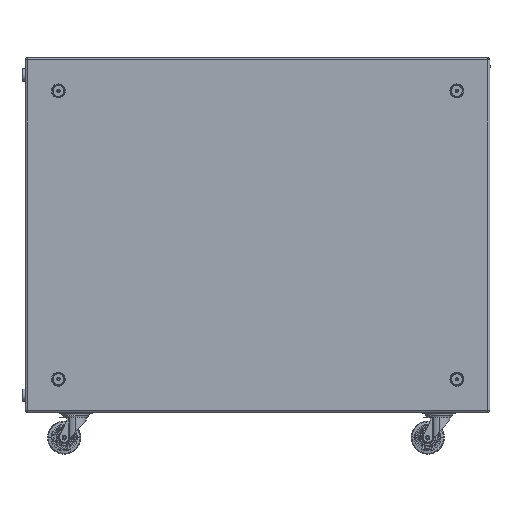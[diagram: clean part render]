
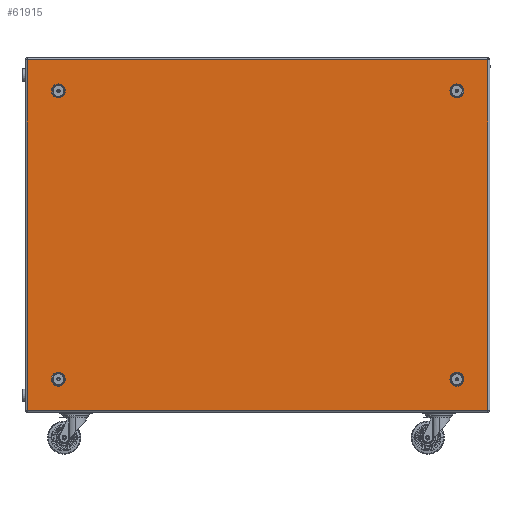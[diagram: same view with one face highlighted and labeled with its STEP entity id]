
A CAD part, front view. The second image highlights one B-rep face of the part: STEP entity #61915.
In plain terms, the highlighted planar face has unit normal (0, -1, 0) as drawn and (0, 0, -1) by its records, which use the part's own axes.
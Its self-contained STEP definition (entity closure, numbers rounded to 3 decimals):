
#1383 = DIRECTION ( 'NONE',  ( 0., 1., 0. ) ) ;
#1385 = DIRECTION ( 'NONE',  ( 0., 0., -1. ) ) ;
#1387 = CARTESIAN_POINT ( 'NONE',  ( 1482., 688., 497. ) ) ;
#1389 = AXIS2_PLACEMENT_3D ( 'NONE', #1387, #1385, #1383 ) ;
#1404 = CIRCLE ( 'NONE', #1389, 21. ) ;
#1414 = DIRECTION ( 'NONE',  ( -1., 0., 0. ) ) ;
#1415 = DIRECTION ( 'NONE',  ( 0., 0., -1. ) ) ;
#1416 = CARTESIAN_POINT ( 'NONE',  ( 1482., 1558., 497. ) ) ;
#1418 = AXIS2_PLACEMENT_3D ( 'NONE', #1416, #1415, #1414 ) ;
#1420 = CIRCLE ( 'NONE', #1418, 21. ) ;
#1502 = DIRECTION ( 'NONE',  ( -1., 0., 0. ) ) ;
#1504 = DIRECTION ( 'NONE',  ( 0., 0., -1. ) ) ;
#1505 = CARTESIAN_POINT ( 'NONE',  ( 2684., 688., 497. ) ) ;
#1506 = AXIS2_PLACEMENT_3D ( 'NONE', #1505, #1504, #1502 ) ;
#1516 = CIRCLE ( 'NONE', #1506, 21. ) ;
#1624 = DIRECTION ( 'NONE',  ( 1., 0., 0. ) ) ;
#1625 = VECTOR ( 'NONE', #1624, 1000. ) ;
#1627 = CARTESIAN_POINT ( 'NONE',  ( 2083., 594.5, 497. ) ) ;
#1628 = LINE ( 'NONE', #1627, #1625 ) ;
#1632 = CARTESIAN_POINT ( 'NONE',  ( 1388.5, 594.5, 497. ) ) ;
#1708 = DIRECTION ( 'NONE',  ( -1., 0., 0. ) ) ;
#1709 = DIRECTION ( 'NONE',  ( 0., 0., -1. ) ) ;
#1710 = CARTESIAN_POINT ( 'NONE',  ( 2684., 1558., 497. ) ) ;
#1712 = AXIS2_PLACEMENT_3D ( 'NONE', #1710, #1709, #1708 ) ;
#1721 = CIRCLE ( 'NONE', #1712, 21. ) ;
#4930 = CARTESIAN_POINT ( 'NONE',  ( 1388.5, 1651.5, 497. ) ) ;
#5857 = DIRECTION ( 'NONE',  ( 0., 1., 0. ) ) ;
#5858 = VECTOR ( 'NONE', #5857, 1000. ) ;
#5859 = CARTESIAN_POINT ( 'NONE',  ( 2777.5, 1390.5, 497. ) ) ;
#5860 = LINE ( 'NONE', #5859, #5858 ) ;
#5861 = CARTESIAN_POINT ( 'NONE',  ( 2777.5, 1651.5, 497. ) ) ;
#5862 = DIRECTION ( 'NONE',  ( -1., 0., 0. ) ) ;
#5863 = VECTOR ( 'NONE', #5862, 1000. ) ;
#5864 = CARTESIAN_POINT ( 'NONE',  ( 1732.5, 1651.5, 497. ) ) ;
#5868 = LINE ( 'NONE', #5864, #5863 ) ;
#6027 = DIRECTION ( 'NONE',  ( 0., -1., 0. ) ) ;
#6028 = VECTOR ( 'NONE', #6027, 1000. ) ;
#6029 = CARTESIAN_POINT ( 'NONE',  ( 1388.5, 855.5, 497. ) ) ;
#6030 = DIRECTION ( 'NONE',  ( 0., -1., 0. ) ) ;
#6031 = DIRECTION ( 'NONE',  ( 0., 0., 1. ) ) ;
#6032 = CARTESIAN_POINT ( 'NONE',  ( 2083., 1123., 497. ) ) ;
#6034 = LINE ( 'NONE', #6029, #6028 ) ;
#6035 = AXIS2_PLACEMENT_3D ( 'NONE', #6032, #6031, #6030 ) ;
#6036 = PLANE ( 'NONE',  #6035 ) ;
#6037 = FACE_BOUND ( 'NONE', #61895, .T. ) ;
#6038 = FACE_BOUND ( 'NONE', #61890, .T. ) ;
#6040 = FACE_BOUND ( 'NONE', #61883, .T. ) ;
#6041 = FACE_BOUND ( 'NONE', #61770, .T. ) ;
#6042 = FACE_OUTER_BOUND ( 'NONE', #61918, .T. ) ;
#33034 = CARTESIAN_POINT ( 'NONE',  ( 2777.5, 594.5, 497. ) ) ;
#35942 = AXIS2_PLACEMENT_3D ( 'NONE', #36008, #36007, #36006 ) ;
#35943 = CIRCLE ( 'NONE', #35942, 21. ) ;
#35962 = CARTESIAN_POINT ( 'NONE',  ( 1482., 709., 497. ) ) ;
#36005 = CARTESIAN_POINT ( 'NONE',  ( 2663., 1558., 497. ) ) ;
#36006 = DIRECTION ( 'NONE',  ( -1., 0., 0. ) ) ;
#36007 = DIRECTION ( 'NONE',  ( 0., 0., -1. ) ) ;
#36008 = CARTESIAN_POINT ( 'NONE',  ( 2684., 1558., 497. ) ) ;
#36014 = CARTESIAN_POINT ( 'NONE',  ( 2705., 1558., 497. ) ) ;
#36079 = CARTESIAN_POINT ( 'NONE',  ( 1503., 1558., 497. ) ) ;
#36100 = CARTESIAN_POINT ( 'NONE',  ( 2663., 688., 497. ) ) ;
#36101 = DIRECTION ( 'NONE',  ( -1., 0., 0. ) ) ;
#36102 = DIRECTION ( 'NONE',  ( 0., 0., -1. ) ) ;
#36103 = CARTESIAN_POINT ( 'NONE',  ( 2684., 688., 497. ) ) ;
#36104 = AXIS2_PLACEMENT_3D ( 'NONE', #36103, #36102, #36101 ) ;
#36105 = CIRCLE ( 'NONE', #36104, 21. ) ;
#36106 = CARTESIAN_POINT ( 'NONE',  ( 2705., 688., 497. ) ) ;
#36109 = DIRECTION ( 'NONE',  ( 0., 1., 0. ) ) ;
#36110 = DIRECTION ( 'NONE',  ( 0., 0., -1. ) ) ;
#36111 = CARTESIAN_POINT ( 'NONE',  ( 1482., 688., 497. ) ) ;
#36112 = AXIS2_PLACEMENT_3D ( 'NONE', #36111, #36110, #36109 ) ;
#36113 = CIRCLE ( 'NONE', #36112, 21. ) ;
#36115 = CARTESIAN_POINT ( 'NONE',  ( 1482., 667., 497. ) ) ;
#36137 = CARTESIAN_POINT ( 'NONE',  ( 1461., 1558., 497. ) ) ;
#36138 = DIRECTION ( 'NONE',  ( -1., 0., 0. ) ) ;
#36139 = DIRECTION ( 'NONE',  ( 0., 0., -1. ) ) ;
#36140 = CARTESIAN_POINT ( 'NONE',  ( 1482., 1558., 497. ) ) ;
#36141 = AXIS2_PLACEMENT_3D ( 'NONE', #36140, #36139, #36138 ) ;
#36142 = CIRCLE ( 'NONE', #36141, 21. ) ;
#40458 = VERTEX_POINT ( 'NONE', #33034 ) ;
#42264 = VERTEX_POINT ( 'NONE', #35962 ) ;
#42281 = EDGE_CURVE ( 'NONE', #42326, #42282, #35943, .T. ) ;
#42282 = VERTEX_POINT ( 'NONE', #36005 ) ;
#42326 = VERTEX_POINT ( 'NONE', #36014 ) ;
#42356 = VERTEX_POINT ( 'NONE', #36106 ) ;
#42359 = EDGE_CURVE ( 'NONE', #42356, #42362, #36105, .T. ) ;
#42362 = VERTEX_POINT ( 'NONE', #36100 ) ;
#42378 = VERTEX_POINT ( 'NONE', #36079 ) ;
#42382 = EDGE_CURVE ( 'NONE', #42378, #42385, #36142, .T. ) ;
#42385 = VERTEX_POINT ( 'NONE', #36137 ) ;
#42404 = VERTEX_POINT ( 'NONE', #36115 ) ;
#42406 = EDGE_CURVE ( 'NONE', #42404, #42264, #36113, .T. ) ;
#59315 = EDGE_CURVE ( 'NONE', #42385, #42378, #1420, .T. ) ;
#59324 = EDGE_CURVE ( 'NONE', #42264, #42404, #1404, .T. ) ;
#59338 = EDGE_CURVE ( 'NONE', #42362, #42356, #1516, .T. ) ;
#59393 = VERTEX_POINT ( 'NONE', #1632 ) ;
#59397 = EDGE_CURVE ( 'NONE', #59393, #40458, #1628, .T. ) ;
#59418 = EDGE_CURVE ( 'NONE', #42282, #42326, #1721, .T. ) ;
#61070 = VERTEX_POINT ( 'NONE', #4930 ) ;
#61759 = EDGE_CURVE ( 'NONE', #61761, #61070, #5868, .T. ) ;
#61761 = VERTEX_POINT ( 'NONE', #5861 ) ;
#61763 = ORIENTED_EDGE ( 'NONE', *, *, #61765, .F. ) ;
#61765 = EDGE_CURVE ( 'NONE', #40458, #61761, #5860, .T. ) ;
#61767 = ORIENTED_EDGE ( 'NONE', *, *, #59397, .F. ) ;
#61770 = EDGE_LOOP ( 'NONE', ( #61880, #61881 ) ) ;
#61880 = ORIENTED_EDGE ( 'NONE', *, *, #59418, .F. ) ;
#61881 = ORIENTED_EDGE ( 'NONE', *, *, #42281, .F. ) ;
#61883 = EDGE_LOOP ( 'NONE', ( #61885, #61888 ) ) ;
#61885 = ORIENTED_EDGE ( 'NONE', *, *, #59324, .F. ) ;
#61888 = ORIENTED_EDGE ( 'NONE', *, *, #42406, .F. ) ;
#61890 = EDGE_LOOP ( 'NONE', ( #61891, #61892 ) ) ;
#61891 = ORIENTED_EDGE ( 'NONE', *, *, #59315, .F. ) ;
#61892 = ORIENTED_EDGE ( 'NONE', *, *, #42382, .F. ) ;
#61895 = EDGE_LOOP ( 'NONE', ( #61897, #61900 ) ) ;
#61897 = ORIENTED_EDGE ( 'NONE', *, *, #59338, .F. ) ;
#61900 = ORIENTED_EDGE ( 'NONE', *, *, #42359, .F. ) ;
#61915 = ADVANCED_FACE ( 'NONE', ( #6042, #6041, #6040, #6038, #6037 ), #6036, .F. ) ;
#61918 = EDGE_LOOP ( 'NONE', ( #61920, #61924, #61763, #61767 ) ) ;
#61920 = ORIENTED_EDGE ( 'NONE', *, *, #61922, .F. ) ;
#61922 = EDGE_CURVE ( 'NONE', #61070, #59393, #6034, .T. ) ;
#61924 = ORIENTED_EDGE ( 'NONE', *, *, #61759, .F. ) ;
